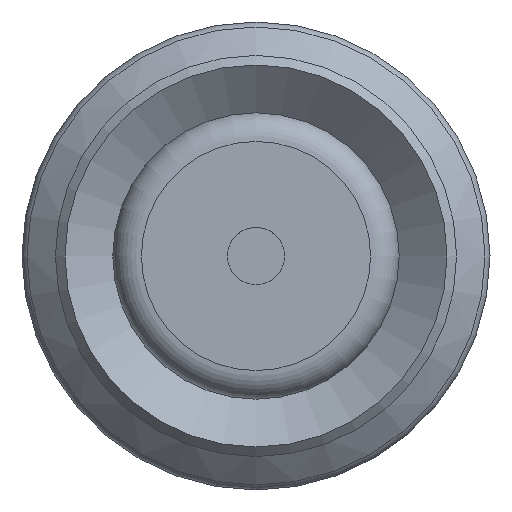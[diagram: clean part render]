
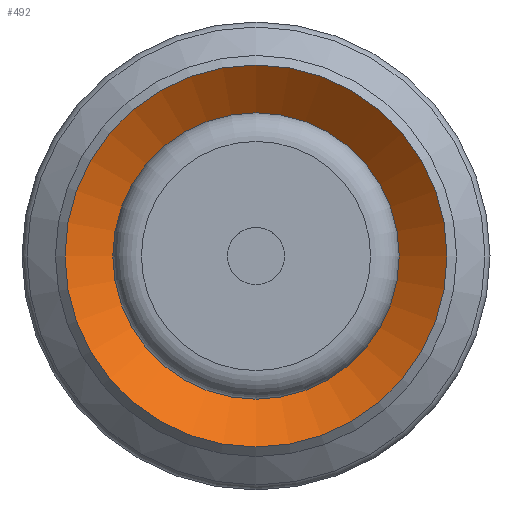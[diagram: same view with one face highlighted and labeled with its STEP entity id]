
A CAD part, front view. The second image highlights one B-rep face of the part: STEP entity #492.
In plain terms, the highlighted conical face has half-angle 52 degrees and reference radius 3 mm.
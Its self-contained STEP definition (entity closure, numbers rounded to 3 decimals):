
#492=ADVANCED_FACE('',(#732,#733),#734,.F.);
#732=FACE_BOUND('',#993,.T.);
#733=FACE_OUTER_BOUND('',#994,.T.);
#734=CONICAL_SURFACE('',#995,3.0,0.908);
#993=EDGE_LOOP('',(#1663));
#994=EDGE_LOOP('',(#1664));
#995=AXIS2_PLACEMENT_3D('',#1665,#1666,#1667);
#1663=ORIENTED_EDGE('',*,*,#1896,.F.);
#1664=ORIENTED_EDGE('',*,*,#1893,.T.);
#1665=CARTESIAN_POINT('',(0.0,7.741,0.));
#1666=DIRECTION('',(-0.0,-1.0,0.));
#1667=DIRECTION('',(0.0,0.,-1.0));
#1893=EDGE_CURVE('',#2197,#2197,#2198,.T.);
#1896=EDGE_CURVE('',#2203,#2203,#2204,.T.);
#2197=VERTEX_POINT('',#2887);
#2198=CIRCLE('',#2888,4.0);
#2203=VERTEX_POINT('',#2893);
#2204=CIRCLE('',#2894,3.0);
#2887=CARTESIAN_POINT('',(0.0,6.96,-4.0));
#2888=AXIS2_PLACEMENT_3D('',#3162,#3163,#3164);
#2893=CARTESIAN_POINT('',(0.0,7.741,-3.0));
#2894=AXIS2_PLACEMENT_3D('',#3171,#3172,#3173);
#3162=CARTESIAN_POINT('',(0.0,6.96,0.0));
#3163=DIRECTION('',(0.0,-1.0,0.));
#3164=DIRECTION('',(0.0,0.,-1.0));
#3171=CARTESIAN_POINT('',(0.0,7.741,0.));
#3172=DIRECTION('',(0.0,-1.0,0.));
#3173=DIRECTION('',(0.0,0.,-1.0));
